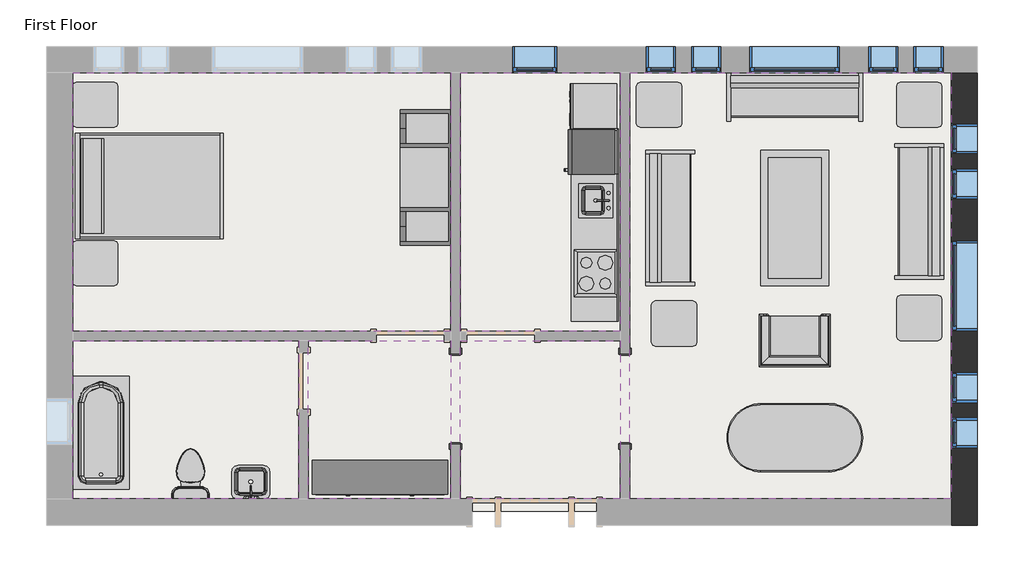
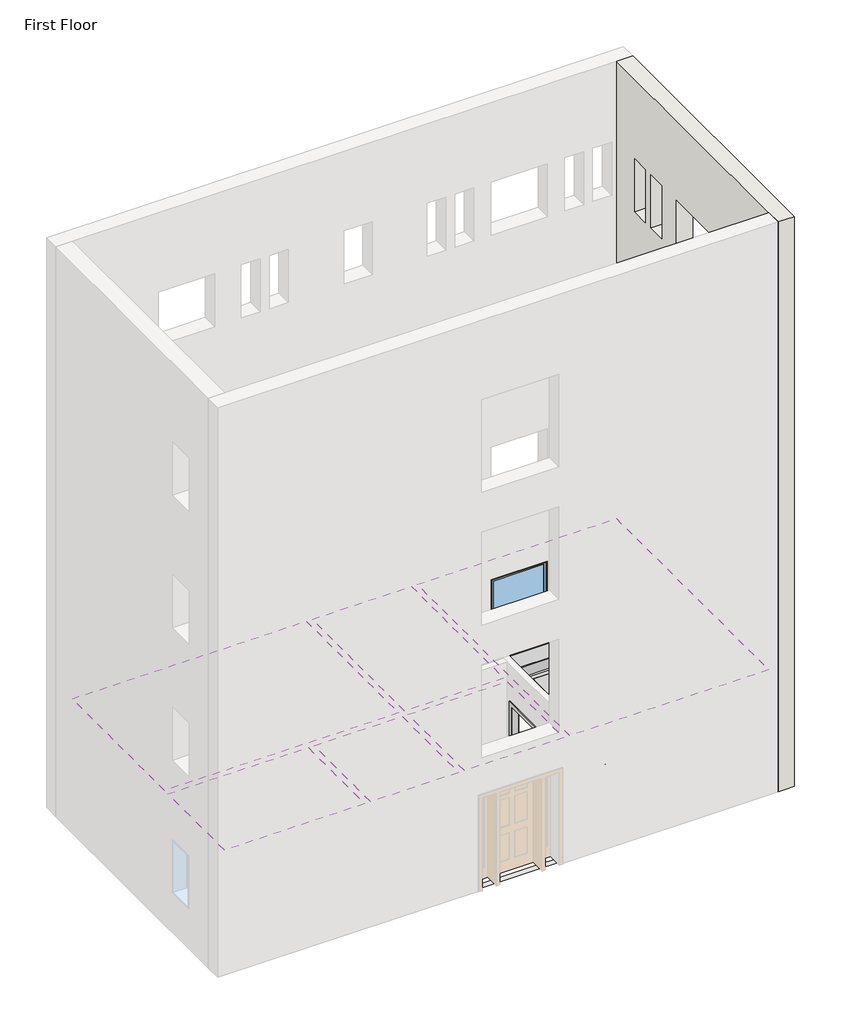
# One storey, part 2 of 2: 16 furniture elements, 11 windows, 6 coverings, 6 proxies, 4 flow terminals, 1 slab, 1 wall.
"""IFC4 building model written with IfcOpenShell, lengths in millimetres."""

from ifc_helpers import new_model, si_unit, frame, origin, place, context, project, spatial, polyline, outline, extrude, faceted_brep, transform, mapped, element, save
from components import proxy_dfcd9396, proxy_3c49123c, proxy_7a545507, proxy_f44482cc, proxy_ec3341c2, flow_terminal_41332a36, flow_terminal_62a433f7, toilet_domestic_3d_toilet_domestic_3d_f7549cf7, toilet_domestic_3d_toilet_domestic_3d_183bbd19, tub_rectangular_3d_tub_rectangular_3d_15036965, furniture_096e7f55, chair_corbu_chair_corbu_2764bdef, furniture_6db689a5, furniture_7c473f12, furniture_cf0b6580, furniture_a4ffab56, furniture_cd93a443, furniture_2c34a4f9, furniture_3a588284, window_da97879f, window_d61ef850, window_60baf983, window_6eb97611

model = new_model("IFC4")

# Units and contexts
model_context = context("Model", 3, world=origin())
ifc_project = project(units=[si_unit("LENGTHUNIT", "METRE", prefix="MILLI")], contexts=[model_context])

# Site, building, storey
site = spatial("IfcSite", under=ifc_project)
building = spatial("IfcBuilding", under=site)
storey = spatial("IfcBuildingStorey", under=building, Name="First Floor", Elevation=0.0)

# Proxies
placement = place(None, origin())
proxy_shape = proxy_dfcd9396(model_context)
element("IfcBuildingElementProxy", 1, Name="Cook Top-4 Unit2 : 22\" x 20\"", ObjectType="Cook Top-4 Unit2 : 22\" x 20\"", at=placement, inside=storey, context=model_context, shape_type="MappedRepresentation", body=[
    mapped(proxy_shape, transform((-4167.1589563, 7568.5224391, 0.0), x_axis=(0.0, 1.0000000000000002, 0.0), y_axis=(-1.0000000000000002, 0.0, 0.0), z_axis=(0.0, 0.0, 1.0))),
])
proxy_2_shape = proxy_3c49123c(model_context)
element("IfcBuildingElementProxy", 2, Name="Dishwasher : 24\" x 24\" x 34\"", ObjectType="Dishwasher : 24\" x 24\" x 34\"", at=placement, inside=storey, context=model_context, shape_type="MappedRepresentation", body=[
    mapped(proxy_2_shape, transform((-4459.0085211, 9434.1049706, 0.0), x_axis=(0.0, 1.0000000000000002, 0.0), y_axis=(-1.0000000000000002, 0.0, 0.0), z_axis=(0.0, 0.0, 1.0))),
])
proxy_3_shape = proxy_7a545507(model_context)
element("IfcBuildingElementProxy", 3, Name="Kitchenette - Medium : 8'6\"", ObjectType="Kitchenette - Medium : 8'6\"", at=placement, inside=storey, context=model_context, shape_type="MappedRepresentation", body=[
    mapped(proxy_3_shape, transform((-3862.3589563, 8197.4847342, 0.0), x_axis=(0.0, 1.0000000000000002, 0.0), y_axis=(-1.0000000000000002, 0.0, 0.0), z_axis=(0.0, 0.0, 1.0))),
])
proxy_4_shape = proxy_f44482cc(model_context)
element("IfcBuildingElementProxy", 4, Name="Opening-Cased : 48\" x 84\"", ObjectType="Opening-Cased : 48\" x 84\"", at=placement, inside=storey, context=model_context, shape_type="MappedRepresentation", body=[
    mapped(proxy_4_shape, transform((-3773.4589563, 5882.4203434, 0.0), x_axis=(0.0, 1.0, 0.0), y_axis=(-1.0, 0.0, 0.0), z_axis=(0.0, 0.0, 1.0))),
])
element("IfcBuildingElementProxy", 5, Name="Opening-Cased : 48\" x 84\"", ObjectType="Opening-Cased : 48\" x 84\"", at=placement, inside=storey, context=model_context, shape_type="MappedRepresentation", body=[
    mapped(proxy_4_shape, transform((-6059.4589563, 5866.04303, 0.0), x_axis=(0.0, -1.0, 0.0), y_axis=(1.0, 0.0, 0.0), z_axis=(0.0, 0.0, 1.0))),
])
proxy_5_shape = proxy_ec3341c2(model_context)
element("IfcBuildingElementProxy", 6, Name="Refrigerator : 24\" x 25\" LH", ObjectType="Refrigerator : 24\" x 25\" LH", at=placement, inside=storey, context=model_context, shape_type="MappedRepresentation", body=[
    mapped(proxy_5_shape, transform((-4212.8079278, 9200.4724391, 0.0), x_axis=(0.0, 1.0000000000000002, 0.0), y_axis=(-1.0000000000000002, 0.0, 0.0), z_axis=(0.0, 0.0, 1.0))),
])

# Coverings
element("IfcCovering", 7, ObjectType="GWB on Mtl. Stud", at=placement, inside=storey, context=model_context, shape_type="SweptSolid", body=[
    extrude(outline(polyline([(-11217.2464563, 10270.0191867), (-6122.9589563, 10270.0191867), (-6122.9589563, 6787.0441867), (-11217.2464563, 6787.0441867), (-11217.2464563, 10270.0191867)])), frame((0.0, 0.0, 2590.8), z_axis=(0.0, 0.0, 1.0), x_axis=(1.0, 0.0, 0.0)), (0.0, 0.0, 1.0), 107.95),
])
element("IfcCovering", 8, ObjectType="GWB on Mtl. Stud", at=placement, inside=storey, context=model_context, shape_type="SweptSolid", body=[
    extrude(outline(polyline([(-5995.9589563, 6787.0441867), (-5995.9589563, 10270.0191867), (-3836.9589563, 10270.0191867), (-3836.9589563, 6787.0441867), (-5995.9589563, 6787.0441867)])), frame((0.0, 0.0, 2590.8), z_axis=(0.0, 0.0, 1.0), x_axis=(1.0, 0.0, 0.0)), (0.0, 0.0, 1.0), 107.95),
])
element("IfcCovering", 9, ObjectType="GWB on Mtl. Stud", at=placement, inside=storey, context=model_context, shape_type="SweptSolid", body=[
    extrude(outline(polyline([(-3709.9589563, 4526.4441867), (-3709.9589563, 10270.0191867), (622.3285437, 10270.0191867), (622.3285437, 4526.4441867), (-3709.9589563, 4526.4441867)])), frame((0.0, 0.0, 2590.8), z_axis=(0.0, 0.0, 1.0), x_axis=(1.0, 0.0, 0.0)), (0.0, 0.0, 1.0), 107.95),
])
element("IfcCovering", 10, ObjectType="GWB on Mtl. Stud", at=placement, inside=storey, context=model_context, shape_type="SweptSolid", body=[
    extrude(outline(polyline([(-3836.9589563, 4526.4441867), (-5995.9589563, 4526.4441867), (-5995.9589563, 6660.0441867), (-3836.9589563, 6660.0441867), (-3836.9589563, 4526.4441867)])), frame((0.0, 0.0, 2590.8), z_axis=(0.0, 0.0, 1.0), x_axis=(1.0, 0.0, 0.0)), (0.0, 0.0, 1.0), 107.95),
])
element("IfcCovering", 11, ObjectType="GWB on Mtl. Stud", at=placement, inside=storey, context=model_context, shape_type="SweptSolid", body=[
    extrude(outline(polyline([(-8169.2464563, 6660.0441867), (-8169.2464563, 4526.4441867), (-11217.2464563, 4526.4441867), (-11217.2464563, 6660.0441867), (-8169.2464563, 6660.0441867)])), frame((0.0, 0.0, 2590.8), z_axis=(0.0, 0.0, 1.0), x_axis=(1.0, 0.0, 0.0)), (0.0, 0.0, 1.0), 107.95),
])
element("IfcCovering", 12, ObjectType="GWB on Mtl. Stud", at=placement, inside=storey, context=model_context, shape_type="SweptSolid", body=[
    extrude(outline(polyline([(-6122.9589563, 4526.4441867), (-8042.2464563, 4526.4441867), (-8042.2464563, 6660.0441867), (-6122.9589563, 6660.0441867), (-6122.9589563, 4526.4441867)])), frame((0.0, 0.0, 2590.8), z_axis=(0.0, 0.0, 1.0), x_axis=(1.0, 0.0, 0.0)), (0.0, 0.0, 1.0), 107.95),
])

# Flow terminals
flow_terminal_shape = flow_terminal_41332a36(model_context)
element("IfcFlowTerminal", 13, ObjectType="Sink Kitchen-Island : 18\" x 18\"", at=placement, inside=storey, context=model_context, shape_type="MappedRepresentation", body=[
    mapped(flow_terminal_shape, transform((-4169.5043574, 8530.7331986, -14.4), x_axis=(0.0, 1.0000000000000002, 0.0), y_axis=(-1.0000000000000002, 0.0, 0.0), z_axis=(0.0, 0.0, 1.0))),
])
flow_terminal_2_shape = flow_terminal_62a433f7(model_context)
element("IfcFlowTerminal", 14, ObjectType="Sink Vanity-Square : 20\" x 18\"", at=placement, inside=storey, context=model_context, shape_type="MappedRepresentation", body=[
    mapped(flow_terminal_2_shape, transform((-8801.2572158, 4706.5895878, 0.0), x_axis=(-1.0, 0.0, 0.0), y_axis=(0.0, -1.0, 0.0), z_axis=(0.0, 0.0, 1.0))),
])
toilet_domestic_3d_toilet_domestic_3d_shape = toilet_domestic_3d_toilet_domestic_3d_f7549cf7(model_context)
toilet_domestic_3d_toilet_domestic_3d_2_shape = toilet_domestic_3d_toilet_domestic_3d_183bbd19(model_context)
element("IfcFlowTerminal", 15, ObjectType="Toilet-Domestic-3D : Toilet-Domestic-3D", at=placement, inside=storey, context=model_context, shape_type="MappedRepresentation", body=[
    mapped(toilet_domestic_3d_toilet_domestic_3d_shape, transform((-9629.7464563, 4894.7441867, 0.0), x_axis=(-1.0, 0.0, 0.0), y_axis=(0.0, -1.0, 0.0), z_axis=(0.0, 0.0, 1.0))),
    mapped(toilet_domestic_3d_toilet_domestic_3d_2_shape, transform((-9629.7464563, 4894.7441867, 0.0), x_axis=(-1.0, 0.0, 0.0), y_axis=(0.0, -1.0, 0.0), z_axis=(0.0, 0.0, 1.0))),
])
tub_rectangular_3d_tub_rectangular_3d_shape = tub_rectangular_3d_tub_rectangular_3d_15036965(model_context)
element("IfcFlowTerminal", 16, ObjectType="Tub-Rectangular-3D : Tub-Rectangular-3D", at=placement, inside=storey, context=model_context, shape_type="MappedRepresentation", body=[
    mapped(tub_rectangular_3d_tub_rectangular_3d_shape, transform((-11393.4589563, 5765.6346554, 0.0), x_axis=(0.0, 1.0, 0.0), y_axis=(-1.0, 0.0, 0.0), z_axis=(0.0, 0.0, 1.0))),
])

# Furniture
furniture_shape = furniture_096e7f55(model_context)
element("IfcFurniture", 17, ObjectType="Bed-Shaker : Double 56\" x 78\"", at=placement, inside=storey, context=model_context, shape_type="MappedRepresentation", body=[
    mapped(furniture_shape, transform((-11172.0857802, 8763.4816867, 0.0), x_axis=(0.0, 1.0, 0.0), y_axis=(-1.0, 0.0, 0.0), z_axis=(0.0, 0.0, 1.0))),
])
chair_corbu_chair_corbu_shape = chair_corbu_chair_corbu_2764bdef(model_context)
element("IfcFurniture", 18, ObjectType="Chair-Corbu : Chair-Corbu", at=placement, inside=storey, context=model_context, shape_type="MappedRepresentation", body=[
    mapped(chair_corbu_chair_corbu_shape, transform((-914.0851858, 7126.8212359, 0.0), x_axis=(-1.0, 0.0, 0.0), y_axis=(0.0, -1.0, 0.0), z_axis=(0.0, 0.0, 1.0))),
])
furniture_2_shape = furniture_6db689a5(model_context)
element("IfcFurniture", 19, ObjectType="Counter Top w Sink Hole : 24\" Depth", at=placement, inside=storey, context=model_context, shape_type="MappedRepresentation", body=[
    mapped(furniture_2_shape, transform((-3862.3589563, 8121.2847342, -14.4), x_axis=(0.0, 1.0000000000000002, 0.0), y_axis=(-1.0000000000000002, 0.0, 0.0), z_axis=(0.0, 0.0, 1.0))),
])
furniture_3_shape = furniture_7c473f12(model_context)
element("IfcFurniture", 20, ObjectType="Dresser : 72\" x 60\" x 18\"", at=placement, inside=storey, context=model_context, shape_type="MappedRepresentation", body=[
    mapped(furniture_3_shape, transform((-6806.2656965, 5181.7071408, 0.0), x_axis=(1.0, 0.0, 0.0), y_axis=(0.0, 1.0, 0.0), z_axis=(0.0, 0.0, 1.0))),
])
furniture_4_shape = furniture_cf0b6580(model_context)
element("IfcFurniture", 21, ObjectType="Entertainment Center : 72\" x 72\" x 24\"", at=placement, inside=storey, context=model_context, shape_type="MappedRepresentation", body=[
    mapped(furniture_4_shape, transform((-6021.3589563, 8857.1441867, 0.0), x_axis=(0.0, -1.0, 0.0), y_axis=(1.0, 0.0, 0.0), z_axis=(0.0, 0.0, 1.0))),
])
furniture_5_shape = furniture_a4ffab56(model_context)
element("IfcFurniture", 22, ObjectType="Sofa : 72\"", at=placement, inside=storey, context=model_context, shape_type="MappedRepresentation", body=[
    mapped(furniture_5_shape, transform((-3017.704858, 8242.2611949, 0.0), x_axis=(0.0, 1.0, 0.0), y_axis=(-1.0, 0.0, 0.0), z_axis=(0.0, 0.0, 1.0))),
])
element("IfcFurniture", 23, ObjectType="Sofa : 72\"", at=placement, inside=storey, context=model_context, shape_type="MappedRepresentation", body=[
    mapped(furniture_5_shape, transform((-1557.8294481, 9801.5748071, 0.0), x_axis=(1.0, 0.0, 0.0), y_axis=(0.0, 1.0, 0.0), z_axis=(0.0, 0.0, 1.0))),
])
element("IfcFurniture", 24, ObjectType="Sofa : 72\"", at=placement, inside=storey, context=model_context, shape_type="MappedRepresentation", body=[
    mapped(furniture_5_shape, transform((42.7869453, 8470.3146785, 0.0), x_axis=(0.0, -1.0, 0.0), y_axis=(1.0, 0.0, 0.0), z_axis=(0.0, 0.0, 1.0))),
])
furniture_6_shape = furniture_cd93a443(model_context)
element("IfcFurniture", 25, ObjectType="Table-Coffee : 36\" x 72\" x 18\"", at=placement, inside=storey, context=model_context, shape_type="MappedRepresentation", body=[
    mapped(furniture_6_shape, transform((-1392.2478785, 8294.36592, 0.0), x_axis=(0.0, 1.0, 0.0), y_axis=(-1.0, 0.0, 0.0), z_axis=(0.0, 0.0, 1.0))),
])
furniture_7_shape = furniture_2c34a4f9(model_context)
element("IfcFurniture", 26, ObjectType="Table-Dining Oval : 36\" x 72\"", at=placement, inside=storey, context=model_context, shape_type="MappedRepresentation", body=[
    mapped(furniture_7_shape, transform((-1085.6392842, 5710.0425473, 0.0), x_axis=(1.0, 0.0, 0.0), y_axis=(0.0, 1.0, 0.0), z_axis=(0.0, 0.0, 1.0))),
])
furniture_8_shape = furniture_3a588284(model_context)
element("IfcFurniture", 27, ObjectType="Table-End : 24\" x 24\"", at=placement, inside=storey, context=model_context, shape_type="MappedRepresentation", body=[
    mapped(furniture_8_shape, transform((-119.5925866, 9684.2316867, 0.0), x_axis=(1.0, 0.0, 0.0), y_axis=(0.0, 1.0, 0.0), z_axis=(0.0, 0.0, 1.0))),
])
element("IfcFurniture", 28, ObjectType="Table-End : 24\" x 24\"", at=placement, inside=storey, context=model_context, shape_type="MappedRepresentation", body=[
    mapped(furniture_8_shape, transform((-11220.9800866, 7550.6316867, 0.0), x_axis=(1.0, 0.0, 0.0), y_axis=(0.0, 1.0, 0.0), z_axis=(0.0, 0.0, 1.0))),
])
element("IfcFurniture", 29, ObjectType="Table-End : 24\" x 24\"", at=placement, inside=storey, context=model_context, shape_type="MappedRepresentation", body=[
    mapped(furniture_8_shape, transform((-11220.9800866, 9684.2316867, 0.0), x_axis=(1.0, 0.0, 0.0), y_axis=(0.0, 1.0, 0.0), z_axis=(0.0, 0.0, 1.0))),
])
element("IfcFurniture", 30, ObjectType="Table-End : 24\" x 24\"", at=placement, inside=storey, context=model_context, shape_type="MappedRepresentation", body=[
    mapped(furniture_8_shape, transform((-3624.7925866, 9684.2316867, 0.0), x_axis=(1.0, 0.0, 0.0), y_axis=(0.0, 1.0, 0.0), z_axis=(0.0, 0.0, 1.0))),
])
element("IfcFurniture", 31, ObjectType="Table-End : 24\" x 24\"", at=placement, inside=storey, context=model_context, shape_type="MappedRepresentation", body=[
    mapped(furniture_8_shape, transform((-3421.5925866, 6737.8316867, 0.0), x_axis=(1.0, 0.0, 0.0), y_axis=(0.0, 1.0, 0.0), z_axis=(0.0, 0.0, 1.0))),
])
element("IfcFurniture", 32, ObjectType="Table-End : 24\" x 24\"", at=placement, inside=storey, context=model_context, shape_type="MappedRepresentation", body=[
    mapped(furniture_8_shape, transform((-119.5925866, 6812.4441867, 0.0), x_axis=(1.0, 0.0, 0.0), y_axis=(0.0, 1.0, 0.0), z_axis=(0.0, 0.0, 1.0))),
])

# Slab
element("IfcSlab", 33, ObjectType="LW Concrete on Metal Deck", at=placement, inside=storey, context=model_context, shape_type="SweptSolid", body=[
    extrude(outline(polyline([(787.4285437, 10435.1191867), (787.4285437, 4361.3441867), (-11382.3464563, 4361.3441867), (-11382.3464563, 10435.1191867), (787.4285437, 10435.1191867)])), frame((0.0, 0.0, -104.775), z_axis=(0.0, 0.0, 1.0), x_axis=(1.0, 0.0, 0.0)), (0.0, 0.0, 1.0), 104.775),
])

# Wall
element("IfcWall", 34, ObjectType="Exterior - Brick on Mtl. Stud", at=placement, inside=storey, context=model_context, shape_type="Brep", body=[
    faceted_brep([(622.3285437, 10270.0191867, 13106.4), (622.3285437, 4526.4441867, 13106.4), (622.3285437, 4174.0191867, 13106.4), (974.7535437, 4174.0191867, 13106.4), (974.7535437, 10270.0191867, 13106.4), (622.3285437, 10270.0191867, 0.0), (622.3285437, 4526.4441867, 0.0), (622.3285437, 4361.3441867, 0.0), (622.3285437, 4174.0191867, 0.0), (622.3285437, 5823.4316867, 8229.6), (622.3285437, 5823.4316867, 7010.4), (622.3285437, 6229.8316867, 7010.4), (622.3285437, 6229.8316867, 8229.6), (622.3285437, 5213.8316867, 8229.6), (622.3285437, 5213.8316867, 7010.4), (622.3285437, 5620.2316867, 7010.4), (622.3285437, 5620.2316867, 8229.6), (622.3285437, 8973.0316867, 8229.6), (622.3285437, 8566.6316867, 8229.6), (622.3285437, 8566.6316867, 7010.4), (622.3285437, 8973.0316867, 7010.4), (622.3285437, 9582.6316867, 8229.6), (622.3285437, 9176.2316867, 8229.6), (622.3285437, 9176.2316867, 7010.4), (622.3285437, 9582.6316867, 7010.4), (622.3285437, 8007.8316867, 8229.6), (622.3285437, 6788.6316867, 8229.6), (622.3285437, 6788.6316867, 7010.4), (622.3285437, 8007.8316867, 7010.4), (622.3285437, 5823.4316867, 5181.6), (622.3285437, 5823.4316867, 3962.4), (622.3285437, 6229.8316867, 3962.4), (622.3285437, 6229.8316867, 5181.6), (622.3285437, 5213.8316867, 5181.6), (622.3285437, 5213.8316867, 3962.4), (622.3285437, 5620.2316867, 3962.4), (622.3285437, 5620.2316867, 5181.6), (622.3285437, 8973.0316867, 5181.6), (622.3285437, 8566.6316867, 5181.6), (622.3285437, 8566.6316867, 3962.4), (622.3285437, 8973.0316867, 3962.4), (622.3285437, 9582.6316867, 5181.6), (622.3285437, 9176.2316867, 5181.6), (622.3285437, 9176.2316867, 3962.4), (622.3285437, 9582.6316867, 3962.4), (622.3285437, 8007.8316867, 5181.6), (622.3285437, 6788.6316867, 5181.6), (622.3285437, 6788.6316867, 3962.4), (622.3285437, 8007.8316867, 3962.4), (622.3285437, 5823.4316867, 11277.6), (622.3285437, 5823.4316867, 10058.4), (622.3285437, 6229.8316867, 10058.4), (622.3285437, 6229.8316867, 11277.6), (622.3285437, 5213.8316867, 11277.6), (622.3285437, 5213.8316867, 10058.4), (622.3285437, 5620.2316867, 10058.4), (622.3285437, 5620.2316867, 11277.6), (622.3285437, 8973.0316867, 11277.6), (622.3285437, 8566.6316867, 11277.6), (622.3285437, 8566.6316867, 10058.4), (622.3285437, 8973.0316867, 10058.4), (622.3285437, 9582.6316867, 11277.6), (622.3285437, 9176.2316867, 11277.6), (622.3285437, 9176.2316867, 10058.4), (622.3285437, 9582.6316867, 10058.4), (622.3285437, 8007.8316867, 11277.6), (622.3285437, 6788.6316867, 11277.6), (622.3285437, 6788.6316867, 10058.4), (622.3285437, 8007.8316867, 10058.4), (622.3285437, 8973.0316867, 2133.6), (622.3285437, 8566.6316867, 2133.6), (622.3285437, 8566.6316867, 914.4), (622.3285437, 8973.0316867, 914.4), (622.3285437, 9582.6316867, 2133.6), (622.3285437, 9176.2316867, 2133.6), (622.3285437, 9176.2316867, 914.4), (622.3285437, 9582.6316867, 914.4), (622.3285437, 8007.8316867, 2133.6), (622.3285437, 6788.6316867, 2133.6), (622.3285437, 6788.6316867, 914.4), (622.3285437, 8007.8316867, 914.4), (622.3285437, 5213.8316867, 2133.6), (622.3285437, 5213.8316867, 914.4), (622.3285437, 5620.2316867, 914.4), (622.3285437, 5620.2316867, 2133.6), (622.3285437, 5823.4316867, 2133.6), (622.3285437, 5823.4316867, 914.4), (622.3285437, 6229.8316867, 914.4), (622.3285437, 6229.8316867, 2133.6), (974.7535437, 10270.0191867, 0.0), (974.7535437, 4174.0191867, 0.0), (974.7535437, 4361.3441867, 0.0), (974.7535437, 5823.4316867, 8229.6), (974.7535437, 6229.8316867, 8229.6), (974.7535437, 6229.8316867, 7010.4), (974.7535437, 5823.4316867, 7010.4), (974.7535437, 5213.8316867, 8229.6), (974.7535437, 5620.2316867, 8229.6), (974.7535437, 5620.2316867, 7010.4), (974.7535437, 5213.8316867, 7010.4), (974.7535437, 8973.0316867, 8229.6), (974.7535437, 8973.0316867, 7010.4), (974.7535437, 8566.6316867, 7010.4), (974.7535437, 8566.6316867, 8229.6), (974.7535437, 9582.6316867, 8229.6), (974.7535437, 9582.6316867, 7010.4), (974.7535437, 9176.2316867, 7010.4), (974.7535437, 9176.2316867, 8229.6), (974.7535437, 8007.8316867, 8229.6), (974.7535437, 8007.8316867, 7010.4), (974.7535437, 6788.6316867, 7010.4), (974.7535437, 6788.6316867, 8229.6), (974.7535437, 5823.4316867, 5181.6), (974.7535437, 6229.8316867, 5181.6), (974.7535437, 6229.8316867, 3962.4), (974.7535437, 5823.4316867, 3962.4), (974.7535437, 5213.8316867, 5181.6), (974.7535437, 5620.2316867, 5181.6), (974.7535437, 5620.2316867, 3962.4), (974.7535437, 5213.8316867, 3962.4), (974.7535437, 8973.0316867, 5181.6), (974.7535437, 8973.0316867, 3962.4), (974.7535437, 8566.6316867, 3962.4), (974.7535437, 8566.6316867, 5181.6), (974.7535437, 9582.6316867, 5181.6), (974.7535437, 9582.6316867, 3962.4), (974.7535437, 9176.2316867, 3962.4), (974.7535437, 9176.2316867, 5181.6), (974.7535437, 8007.8316867, 5181.6), (974.7535437, 8007.8316867, 3962.4), (974.7535437, 6788.6316867, 3962.4), (974.7535437, 6788.6316867, 5181.6), (974.7535437, 5823.4316867, 11277.6), (974.7535437, 6229.8316867, 11277.6), (974.7535437, 6229.8316867, 10058.4), (974.7535437, 5823.4316867, 10058.4), (974.7535437, 5213.8316867, 11277.6), (974.7535437, 5620.2316867, 11277.6), (974.7535437, 5620.2316867, 10058.4), (974.7535437, 5213.8316867, 10058.4), (974.7535437, 8973.0316867, 11277.6), (974.7535437, 8973.0316867, 10058.4), (974.7535437, 8566.6316867, 10058.4), (974.7535437, 8566.6316867, 11277.6), (974.7535437, 9582.6316867, 11277.6), (974.7535437, 9582.6316867, 10058.4), (974.7535437, 9176.2316867, 10058.4), (974.7535437, 9176.2316867, 11277.6), (974.7535437, 8007.8316867, 11277.6), (974.7535437, 8007.8316867, 10058.4), (974.7535437, 6788.6316867, 10058.4), (974.7535437, 6788.6316867, 11277.6), (974.7535437, 8973.0316867, 2133.6), (974.7535437, 8973.0316867, 914.4), (974.7535437, 8566.6316867, 914.4), (974.7535437, 8566.6316867, 2133.6), (974.7535437, 9582.6316867, 2133.6), (974.7535437, 9582.6316867, 914.4), (974.7535437, 9176.2316867, 914.4), (974.7535437, 9176.2316867, 2133.6), (974.7535437, 8007.8316867, 2133.6), (974.7535437, 8007.8316867, 914.4), (974.7535437, 6788.6316867, 914.4), (974.7535437, 6788.6316867, 2133.6), (974.7535437, 5213.8316867, 2133.6), (974.7535437, 5620.2316867, 2133.6), (974.7535437, 5620.2316867, 914.4), (974.7535437, 5213.8316867, 914.4), (974.7535437, 5823.4316867, 2133.6), (974.7535437, 6229.8316867, 2133.6), (974.7535437, 6229.8316867, 914.4), (974.7535437, 5823.4316867, 914.4), (787.4285437, 10270.0191867, 0.0), (787.4285437, 4174.0191867, 0.0), (787.4285437, 4361.3441867, 0.0)], [[[0, 1, 2, 3, 4]], [[5, 6, 7, 8, 2, 1, 0], [9, 10, 11, 12], [13, 14, 15, 16], [17, 18, 19, 20], [21, 22, 23, 24], [25, 26, 27, 28], [29, 30, 31, 32], [33, 34, 35, 36], [37, 38, 39, 40], [41, 42, 43, 44], [45, 46, 47, 48], [49, 50, 51, 52], [53, 54, 55, 56], [57, 58, 59, 60], [61, 62, 63, 64], [65, 66, 67, 68], [69, 70, 71, 72], [73, 74, 75, 76], [77, 78, 79, 80], [81, 82, 83, 84], [85, 86, 87, 88]], [[89, 4, 3, 90, 91], [92, 93, 94, 95], [96, 97, 98, 99], [100, 101, 102, 103], [104, 105, 106, 107], [108, 109, 110, 111], [112, 113, 114, 115], [116, 117, 118, 119], [120, 121, 122, 123], [124, 125, 126, 127], [128, 129, 130, 131], [132, 133, 134, 135], [136, 137, 138, 139], [140, 141, 142, 143], [144, 145, 146, 147], [148, 149, 150, 151], [152, 153, 154, 155], [156, 157, 158, 159], [160, 161, 162, 163], [164, 165, 166, 167], [168, 169, 170, 171]], [[5, 0, 4, 89, 172]], [[2, 8, 173, 90, 3]], [[172, 89, 91, 174]], [[8, 7, 174, 173]], [[174, 91, 90, 173]], [[7, 6, 5, 172, 174]], [[10, 9, 92, 95]], [[11, 10, 95, 94]], [[12, 11, 94, 93]], [[9, 12, 93, 92]], [[14, 13, 96, 99]], [[15, 14, 99, 98]], [[16, 15, 98, 97]], [[13, 16, 97, 96]], [[101, 100, 17, 20]], [[102, 101, 20, 19]], [[103, 102, 19, 18]], [[100, 103, 18, 17]], [[105, 104, 21, 24]], [[106, 105, 24, 23]], [[107, 106, 23, 22]], [[104, 107, 22, 21]], [[109, 108, 25, 28]], [[110, 109, 28, 27]], [[111, 110, 27, 26]], [[108, 111, 26, 25]], [[30, 29, 112, 115]], [[31, 30, 115, 114]], [[32, 31, 114, 113]], [[29, 32, 113, 112]], [[34, 33, 116, 119]], [[35, 34, 119, 118]], [[36, 35, 118, 117]], [[33, 36, 117, 116]], [[121, 120, 37, 40]], [[122, 121, 40, 39]], [[123, 122, 39, 38]], [[120, 123, 38, 37]], [[125, 124, 41, 44]], [[126, 125, 44, 43]], [[127, 126, 43, 42]], [[124, 127, 42, 41]], [[129, 128, 45, 48]], [[130, 129, 48, 47]], [[131, 130, 47, 46]], [[128, 131, 46, 45]], [[50, 49, 132, 135]], [[51, 50, 135, 134]], [[52, 51, 134, 133]], [[49, 52, 133, 132]], [[54, 53, 136, 139]], [[55, 54, 139, 138]], [[56, 55, 138, 137]], [[53, 56, 137, 136]], [[141, 140, 57, 60]], [[142, 141, 60, 59]], [[143, 142, 59, 58]], [[140, 143, 58, 57]], [[145, 144, 61, 64]], [[146, 145, 64, 63]], [[147, 146, 63, 62]], [[144, 147, 62, 61]], [[149, 148, 65, 68]], [[150, 149, 68, 67]], [[151, 150, 67, 66]], [[148, 151, 66, 65]], [[153, 152, 69, 72]], [[154, 153, 72, 71]], [[155, 154, 71, 70]], [[152, 155, 70, 69]], [[157, 156, 73, 76]], [[158, 157, 76, 75]], [[159, 158, 75, 74]], [[156, 159, 74, 73]], [[161, 160, 77, 80]], [[162, 161, 80, 79]], [[163, 162, 79, 78]], [[160, 163, 78, 77]], [[82, 81, 164, 167]], [[83, 82, 167, 166]], [[84, 83, 166, 165]], [[81, 84, 165, 164]], [[86, 85, 168, 171]], [[87, 86, 171, 170]], [[88, 87, 170, 169]], [[85, 88, 169, 168]]]),
])

# Windows
window_shape = window_da97879f(model_context)
element("IfcWindow", 35, ObjectType="Fixed : 16\" x 48\"", at=placement, inside=storey, context=model_context, shape_type="MappedRepresentation", body=[
    mapped(window_shape, transform((-3328.9589563, 10446.2316867, 0.0), x_axis=(-1.0, 0.0, 0.0), y_axis=(0.0, -1.0, 0.0), z_axis=(0.0, 0.0, 1.0))),
])
element("IfcWindow", 36, ObjectType="Fixed : 16\" x 48\"", at=placement, inside=storey, context=model_context, shape_type="MappedRepresentation", body=[
    mapped(window_shape, transform((-2719.3589563, 10446.2316867, 0.0), x_axis=(-1.0, 0.0, 0.0), y_axis=(0.0, -1.0, 0.0), z_axis=(0.0, 0.0, 1.0))),
])
element("IfcWindow", 37, ObjectType="Fixed : 16\" x 48\"", at=placement, inside=storey, context=model_context, shape_type="MappedRepresentation", body=[
    mapped(window_shape, transform((798.5410437, 9417.5316867, 0.0), x_axis=(0.0, 1.0, 0.0), y_axis=(-1.0, 0.0, 0.0), z_axis=(0.0, 0.0, 1.0))),
])
element("IfcWindow", 38, ObjectType="Fixed : 16\" x 48\"", at=placement, inside=storey, context=model_context, shape_type="MappedRepresentation", body=[
    mapped(window_shape, transform((798.5410437, 8807.9316867, 0.0), x_axis=(0.0, 1.0, 0.0), y_axis=(-1.0, 0.0, 0.0), z_axis=(0.0, 0.0, 1.0))),
])
window_2_shape = window_d61ef850(model_context)
element("IfcWindow", 39, ObjectType="Fixed : 16\" x 48\"", at=placement, inside=storey, context=model_context, shape_type="MappedRepresentation", body=[
    mapped(window_2_shape, transform((354.0410437, 10446.2316867, 0.0), x_axis=(1.0, 0.0, 0.0), y_axis=(0.0, 1.0, 0.0), z_axis=(0.0, 0.0, 1.0))),
])
element("IfcWindow", 40, ObjectType="Fixed : 16\" x 48\"", at=placement, inside=storey, context=model_context, shape_type="MappedRepresentation", body=[
    mapped(window_2_shape, transform((-255.5589563, 10446.2316867, 0.0), x_axis=(1.0, 0.0, 0.0), y_axis=(0.0, 1.0, 0.0), z_axis=(0.0, 0.0, 1.0))),
])
element("IfcWindow", 41, ObjectType="Fixed : 16\" x 48\"", at=placement, inside=storey, context=model_context, shape_type="MappedRepresentation", body=[
    mapped(window_2_shape, transform((798.5410437, 5378.9316867, 0.0), x_axis=(0.0, -1.0, 0.0), y_axis=(1.0, 0.0, 0.0), z_axis=(0.0, 0.0, 1.0))),
])
element("IfcWindow", 42, ObjectType="Fixed : 16\" x 48\"", at=placement, inside=storey, context=model_context, shape_type="MappedRepresentation", body=[
    mapped(window_2_shape, transform((798.5410437, 5988.5316867, 0.0), x_axis=(0.0, -1.0, 0.0), y_axis=(1.0, 0.0, 0.0), z_axis=(0.0, 0.0, 1.0))),
])
window_3_shape = window_60baf983(model_context)
element("IfcWindow", 43, ObjectType="Fixed : 24\" x 48\"", at=placement, inside=storey, context=model_context, shape_type="MappedRepresentation", body=[
    mapped(window_3_shape, transform((-5030.7589563, 10446.2316867, 0.0), x_axis=(-1.0, 0.0, 0.0), y_axis=(0.0, -1.0, 0.0), z_axis=(0.0, 0.0, 1.0))),
])
window_4_shape = window_6eb97611(model_context)
element("IfcWindow", 44, ObjectType="Fixed : 48\" x 48\"", at=placement, inside=storey, context=model_context, shape_type="MappedRepresentation", body=[
    mapped(window_4_shape, transform((-1525.5589563, 10446.2316867, 0.0), x_axis=(-1.0, 0.0, 0.0), y_axis=(0.0, -1.0, 0.0), z_axis=(0.0, 0.0, 1.0))),
])
element("IfcWindow", 45, ObjectType="Fixed : 48\" x 48\"", at=placement, inside=storey, context=model_context, shape_type="MappedRepresentation", body=[
    mapped(window_4_shape, transform((798.5410437, 7436.3316867, 0.0), x_axis=(0.0, 1.0, 0.0), y_axis=(-1.0, 0.0, 0.0), z_axis=(0.0, 0.0, 1.0))),
])

save(model, "model.ifc")
